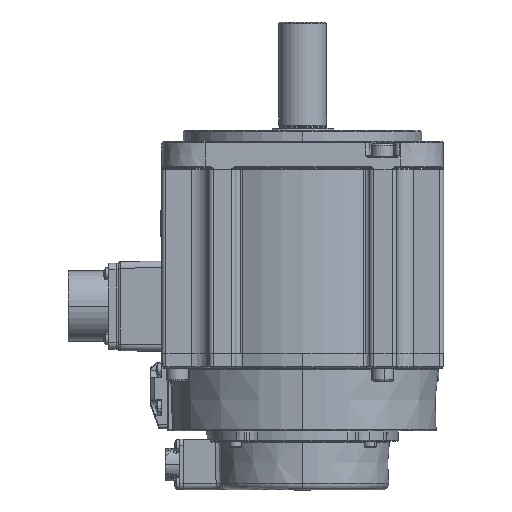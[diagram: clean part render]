
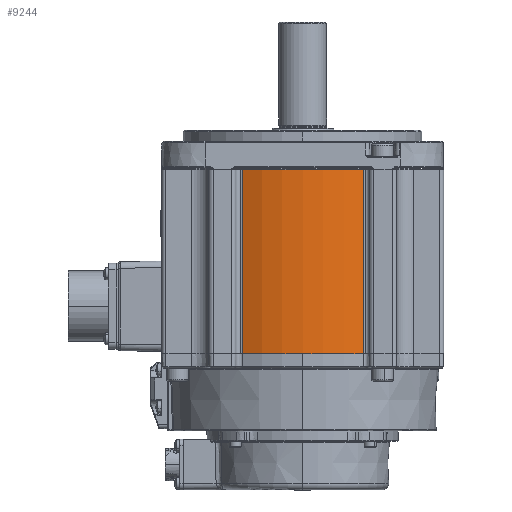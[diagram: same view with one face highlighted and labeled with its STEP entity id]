
A CAD part, left-side view. The second image highlights one B-rep face of the part: STEP entity #9244.
In plain terms, the highlighted cylindrical face has radius 64.5 mm (diameter 129 mm), a partial arc.
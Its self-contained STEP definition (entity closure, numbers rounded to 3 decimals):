
#1200 = DIRECTION ( 'NONE',  ( 0., 0., -1. ) ) ;
#5286 = EDGE_CURVE ( 'NONE', #13733, #47042, #10212, .T. ) ;
#7104 = EDGE_LOOP ( 'NONE', ( #24998, #38931, #40713, #8017 ) ) ;
#8017 = ORIENTED_EDGE ( 'NONE', *, *, #23070, .T. ) ;
#9244 = ADVANCED_FACE ( 'NONE', ( #25152 ), #23739, .T. ) ;
#9415 = DIRECTION ( 'NONE',  ( 0., 0., 1. ) ) ;
#10212 = LINE ( 'NONE', #37810, #33367 ) ;
#11862 = AXIS2_PLACEMENT_3D ( 'NONE', #14078, #26774, #28399 ) ;
#12084 = CIRCLE ( 'NONE', #55900, 64.5 ) ;
#13518 = CARTESIAN_POINT ( 'NONE',  ( -58.154, -27.9, -42.5 ) ) ;
#13596 = VERTEX_POINT ( 'NONE', #21531 ) ;
#13733 = VERTEX_POINT ( 'NONE', #13518 ) ;
#14078 = CARTESIAN_POINT ( 'NONE',  ( 0., 0., -43.5 ) ) ;
#14452 = CARTESIAN_POINT ( 'NONE',  ( -58.154, 27.9, -42.5 ) ) ;
#15464 = EDGE_CURVE ( 'NONE', #13733, #46573, #12084, .T. ) ;
#21531 = CARTESIAN_POINT ( 'NONE',  ( -58.154, 27.9, 42.5 ) ) ;
#22972 = CARTESIAN_POINT ( 'NONE',  ( -58.154, 27.9, -43.5 ) ) ;
#23070 = EDGE_CURVE ( 'NONE', #13596, #46573, #44528, .T. ) ;
#23739 = CYLINDRICAL_SURFACE ( 'NONE', #11862, 64.5 ) ;
#24710 = CARTESIAN_POINT ( 'NONE',  ( 0., 0., 42.5 ) ) ;
#24998 = ORIENTED_EDGE ( 'NONE', *, *, #15464, .F. ) ;
#25152 = FACE_OUTER_BOUND ( 'NONE', #7104, .T. ) ;
#26774 = DIRECTION ( 'NONE',  ( 0., 0., 1. ) ) ;
#27241 = CARTESIAN_POINT ( 'NONE',  ( 0., 0., -42.5 ) ) ;
#28399 = DIRECTION ( 'NONE',  ( 1., 0., 0. ) ) ;
#29078 = DIRECTION ( 'NONE',  ( 0., -1., 0. ) ) ;
#31568 = DIRECTION ( 'NONE',  ( 0., 1., 0. ) ) ;
#32273 = CARTESIAN_POINT ( 'NONE',  ( -58.154, -27.9, 42.5 ) ) ;
#33062 = VECTOR ( 'NONE', #53278, 1000. ) ;
#33367 = VECTOR ( 'NONE', #9415, 1000. ) ;
#36468 = EDGE_CURVE ( 'NONE', #13596, #47042, #42090, .T. ) ;
#37810 = CARTESIAN_POINT ( 'NONE',  ( -58.154, -27.9, -43.5 ) ) ;
#38931 = ORIENTED_EDGE ( 'NONE', *, *, #5286, .T. ) ;
#40713 = ORIENTED_EDGE ( 'NONE', *, *, #36468, .F. ) ;
#42090 = CIRCLE ( 'NONE', #47288, 64.5 ) ;
#44528 = LINE ( 'NONE', #22972, #33062 ) ;
#46573 = VERTEX_POINT ( 'NONE', #14452 ) ;
#47042 = VERTEX_POINT ( 'NONE', #32273 ) ;
#47288 = AXIS2_PLACEMENT_3D ( 'NONE', #24710, #54980, #29078 ) ;
#53278 = DIRECTION ( 'NONE',  ( 0., 0., -1. ) ) ;
#54980 = DIRECTION ( 'NONE',  ( 0., 0., 1. ) ) ;
#55900 = AXIS2_PLACEMENT_3D ( 'NONE', #27241, #1200, #31568 ) ;
